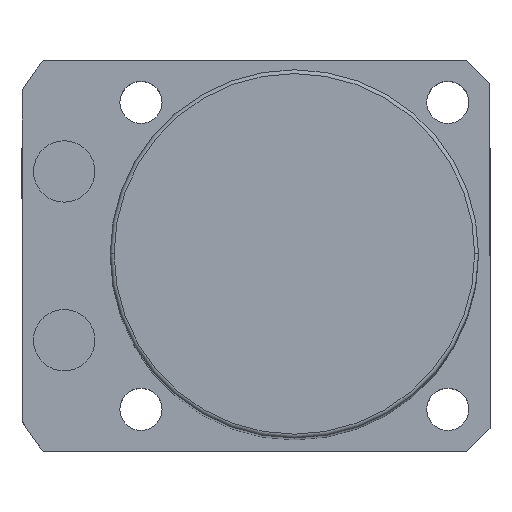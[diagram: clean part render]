
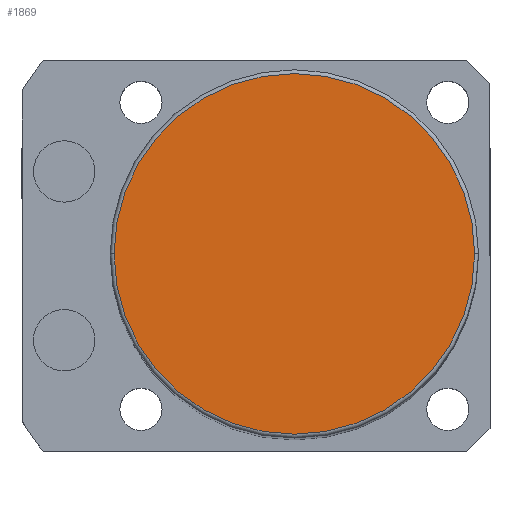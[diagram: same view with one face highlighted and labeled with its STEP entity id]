
A CAD part, top view. The second image highlights one B-rep face of the part: STEP entity #1869.
In plain terms, the highlighted planar face has unit normal (0, 0, 1).
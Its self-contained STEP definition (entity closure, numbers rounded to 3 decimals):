
#15 = DIRECTION ( 'NONE',  ( 0., 0., 1. ) ) ;
#57 = CIRCLE ( 'NONE', #1125, 23.5 ) ;
#301 = CIRCLE ( 'NONE', #1888, 23.5 ) ;
#308 = VERTEX_POINT ( 'NONE', #1743 ) ;
#494 = FACE_OUTER_BOUND ( 'NONE', #586, .T. ) ;
#586 = EDGE_LOOP ( 'NONE', ( #933, #1607 ) ) ;
#797 = CARTESIAN_POINT ( 'NONE',  ( 0., 0., 156. ) ) ;
#933 = ORIENTED_EDGE ( 'NONE', *, *, #1336, .T. ) ;
#1088 = DIRECTION ( 'NONE',  ( 0., 0., 1. ) ) ;
#1125 = AXIS2_PLACEMENT_3D ( 'NONE', #1908, #1088, #1514 ) ;
#1336 = EDGE_CURVE ( 'NONE', #1717, #308, #57, .T. ) ;
#1407 = DIRECTION ( 'NONE',  ( 1., 0., 0. ) ) ;
#1514 = DIRECTION ( 'NONE',  ( 1., 0., 0. ) ) ;
#1531 = DIRECTION ( 'NONE',  ( 1., 0., 0. ) ) ;
#1607 = ORIENTED_EDGE ( 'NONE', *, *, #2333, .T. ) ;
#1710 = DIRECTION ( 'NONE',  ( 0., 0., 1. ) ) ;
#1717 = VERTEX_POINT ( 'NONE', #2259 ) ;
#1743 = CARTESIAN_POINT ( 'NONE',  ( -23.5, 0., 156. ) ) ;
#1869 = ADVANCED_FACE ( 'NONE', ( #494 ), #2289, .T. ) ;
#1873 = AXIS2_PLACEMENT_3D ( 'NONE', #2282, #1710, #1531 ) ;
#1888 = AXIS2_PLACEMENT_3D ( 'NONE', #797, #15, #1407 ) ;
#1908 = CARTESIAN_POINT ( 'NONE',  ( 0., 0., 156. ) ) ;
#2259 = CARTESIAN_POINT ( 'NONE',  ( 23.5, 0., 156. ) ) ;
#2282 = CARTESIAN_POINT ( 'NONE',  ( 0., 0., 156. ) ) ;
#2289 = PLANE ( 'NONE',  #1873 ) ;
#2333 = EDGE_CURVE ( 'NONE', #308, #1717, #301, .T. ) ;
